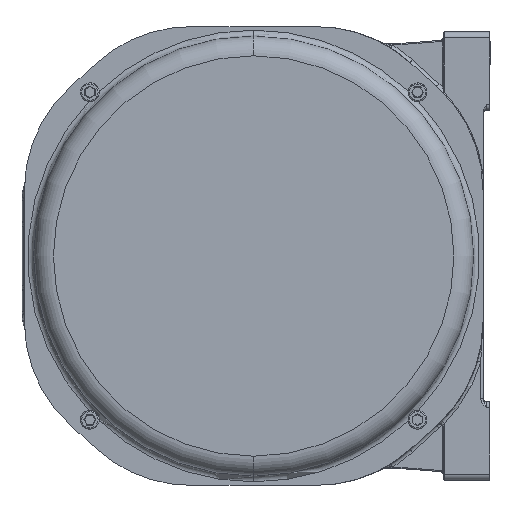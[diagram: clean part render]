
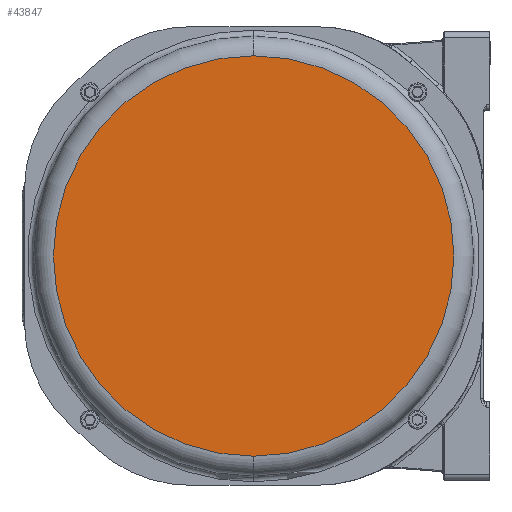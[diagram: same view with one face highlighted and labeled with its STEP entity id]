
A CAD part, left-side view. The second image highlights one B-rep face of the part: STEP entity #43847.
In plain terms, the highlighted planar face has unit normal (-1, 0, 0).
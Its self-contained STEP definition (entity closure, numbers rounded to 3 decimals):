
#52 = FACE_OUTER_BOUND ( 'NONE', #62078, .T. ) ;
#2499 = ORIENTED_EDGE ( 'NONE', *, *, #23242, .T. ) ;
#2665 = EDGE_CURVE ( 'NONE', #30927, #4387, #35192, .T. ) ;
#4387 = VERTEX_POINT ( 'NONE', #53813 ) ;
#5738 = CARTESIAN_POINT ( 'NONE',  ( -312., 0., 0. ) ) ;
#10130 = CARTESIAN_POINT ( 'NONE',  ( -312., 0., 0. ) ) ;
#15389 = DIRECTION ( 'NONE',  ( 0., 0., 1. ) ) ;
#21810 = ORIENTED_EDGE ( 'NONE', *, *, #2665, .T. ) ;
#23242 = EDGE_CURVE ( 'NONE', #4387, #30927, #45407, .T. ) ;
#25915 = PLANE ( 'NONE',  #34536 ) ;
#30876 = CARTESIAN_POINT ( 'NONE',  ( -312., 0., 0. ) ) ;
#30927 = VERTEX_POINT ( 'NONE', #53342 ) ;
#31083 = DIRECTION ( 'NONE',  ( 0., 0., 1. ) ) ;
#34536 = AXIS2_PLACEMENT_3D ( 'NONE', #30876, #62081, #31083 ) ;
#35192 = CIRCLE ( 'NONE', #52397, 172. ) ;
#36442 = DIRECTION ( 'NONE',  ( 0., 0., 1. ) ) ;
#41979 = DIRECTION ( 'NONE',  ( -1., 0., 0. ) ) ;
#43847 = ADVANCED_FACE ( 'NONE', ( #52 ), #25915, .T. ) ;
#45407 = CIRCLE ( 'NONE', #49292, 172. ) ;
#46388 = DIRECTION ( 'NONE',  ( -1., 0., 0. ) ) ;
#49292 = AXIS2_PLACEMENT_3D ( 'NONE', #10130, #46388, #15389 ) ;
#52397 = AXIS2_PLACEMENT_3D ( 'NONE', #5738, #41979, #36442 ) ;
#53342 = CARTESIAN_POINT ( 'NONE',  ( -312., 0., 172. ) ) ;
#53813 = CARTESIAN_POINT ( 'NONE',  ( -312., 0., -172. ) ) ;
#62078 = EDGE_LOOP ( 'NONE', ( #21810, #2499 ) ) ;
#62081 = DIRECTION ( 'NONE',  ( -1., 0., 0. ) ) ;
